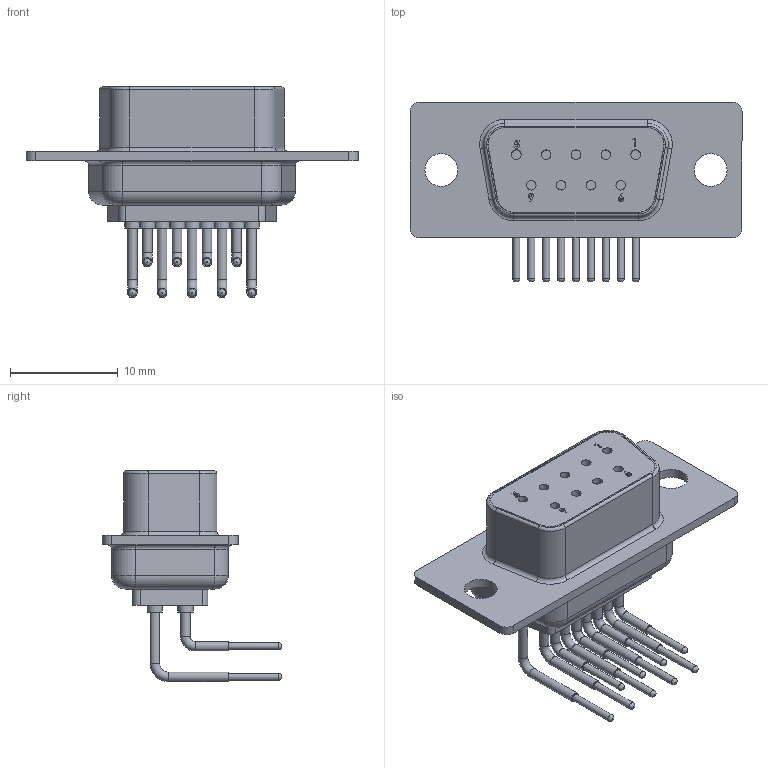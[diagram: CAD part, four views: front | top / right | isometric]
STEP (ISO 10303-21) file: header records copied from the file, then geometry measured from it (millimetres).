
FILE_DESCRIPTION (( 'STEP AP203' ), '1' );
FILE_NAME ('174E-009-213.STEP', '2018-10-19T20:03:01', ( '' ), ( '' ), 'SwSTEP 2.0', 'SolidWorks 2017', '' );
FILE_SCHEMA (( 'CONFIG_CONTROL_DESIGN' ));
Length unit declared in the file: inch
Products named in the file (1): 174E-009-213
Bounding box: 30.81 x 16.65 x 19.61 mm (x, y, z)
Volume: 2115.3 mm3; surface area: 2395 mm2
Topology: 1 solids, 1 shells, 237 faces, 505 edges, 317 vertices
Faces by surface type: plane 92, cylinder 87, torus 34, bspline 24
Full cylindrical faces by diameter (mm): 0.66 x9, 0.889 x27, 1.397 x9, 3.048 x2
Entity records: 7332 total; most frequent: CARTESIAN_POINT 2379, DIRECTION 1011, ORIENTED_EDGE 880, EDGE_CURVE 440, AXIS2_PLACEMENT_3D 409, EDGE_LOOP 353, VERTEX_POINT 317, FACE_OUTER_BOUND 302
